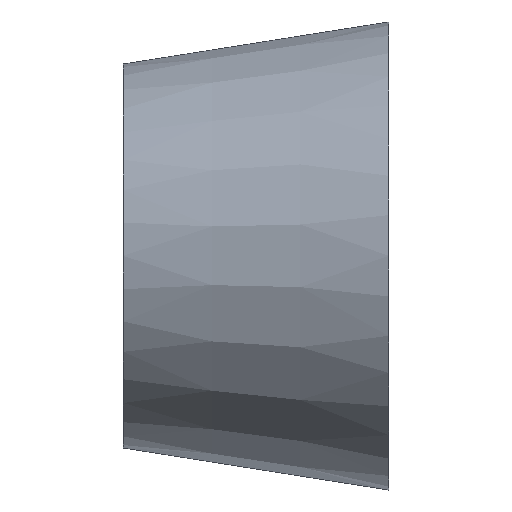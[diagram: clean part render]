
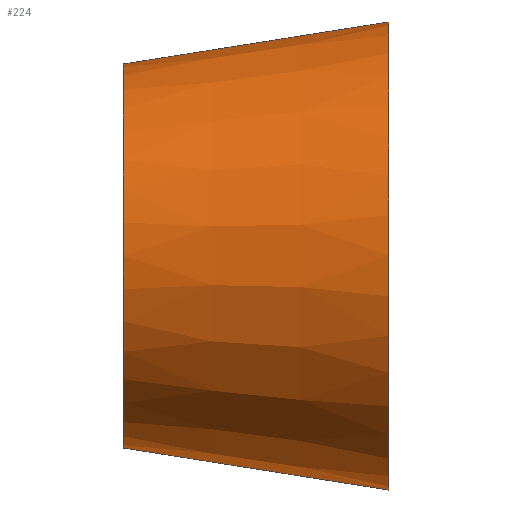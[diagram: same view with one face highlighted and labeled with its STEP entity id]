
A CAD part, left-side view. The second image highlights one B-rep face of the part: STEP entity #224.
In plain terms, the highlighted conical face has half-angle 9 degrees and reference radius 47.069 mm.
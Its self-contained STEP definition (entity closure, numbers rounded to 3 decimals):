
#1 = DIRECTION ( 'NONE',  ( -0.001, 0., -1. ) ) ;
#9 = ORIENTED_EDGE ( 'NONE', *, *, #19, .F. ) ;
#14 = EDGE_CURVE ( 'NONE', #52, #190, #192, .T. ) ;
#16 = CARTESIAN_POINT ( 'NONE',  ( -6.586, 4.524, 157.845 ) ) ;
#19 = EDGE_CURVE ( 'NONE', #28, #147, #142, .T. ) ;
#26 = VECTOR ( 'NONE', #175, 1000. ) ;
#28 = VERTEX_POINT ( 'NONE', #35 ) ;
#33 = EDGE_CURVE ( 'NONE', #190, #147, #83, .T. ) ;
#35 = CARTESIAN_POINT ( 'NONE',  ( -6.577, -60.476, 168.14 ) ) ;
#48 = ORIENTED_EDGE ( 'NONE', *, *, #14, .T. ) ;
#52 = VERTEX_POINT ( 'NONE', #16 ) ;
#60 = AXIS2_PLACEMENT_3D ( 'NONE', #265, #72, #1 ) ;
#72 = DIRECTION ( 'NONE',  ( 0., -1., 0. ) ) ;
#75 = ORIENTED_EDGE ( 'NONE', *, *, #251, .F. ) ;
#83 = LINE ( 'NONE', #150, #154 ) ;
#86 = CARTESIAN_POINT ( 'NONE',  ( -6.629, 4.524, 110.777 ) ) ;
#89 = LINE ( 'NONE', #261, #26 ) ;
#123 = AXIS2_PLACEMENT_3D ( 'NONE', #86, #242, #174 ) ;
#132 = CONICAL_SURFACE ( 'NONE', #123, 47.069, 0.157 ) ;
#142 = CIRCLE ( 'NONE', #212, 57.364 ) ;
#147 = VERTEX_POINT ( 'NONE', #156 ) ;
#149 = DIRECTION ( 'NONE',  ( -0.001, 0., -1. ) ) ;
#150 = CARTESIAN_POINT ( 'NONE',  ( -6.671, 4.524, 63.708 ) ) ;
#154 = VECTOR ( 'NONE', #235, 1000. ) ;
#156 = CARTESIAN_POINT ( 'NONE',  ( -6.68, -60.476, 53.413 ) ) ;
#166 = EDGE_LOOP ( 'NONE', ( #75, #48, #226, #9 ) ) ;
#167 = CARTESIAN_POINT ( 'NONE',  ( -6.629, -60.476, 110.777 ) ) ;
#174 = DIRECTION ( 'NONE',  ( -0.001, 0., -1. ) ) ;
#175 = DIRECTION ( 'NONE',  ( 0., -0.988, 0.156 ) ) ;
#190 = VERTEX_POINT ( 'NONE', #199 ) ;
#192 = CIRCLE ( 'NONE', #60, 47.069 ) ;
#198 = FACE_OUTER_BOUND ( 'NONE', #166, .T. ) ;
#199 = CARTESIAN_POINT ( 'NONE',  ( -6.671, 4.524, 63.708 ) ) ;
#212 = AXIS2_PLACEMENT_3D ( 'NONE', #167, #232, #149 ) ;
#224 = ADVANCED_FACE ( 'NONE', ( #198 ), #132, .T. ) ;
#226 = ORIENTED_EDGE ( 'NONE', *, *, #33, .T. ) ;
#232 = DIRECTION ( 'NONE',  ( 0., -1., 0. ) ) ;
#235 = DIRECTION ( 'NONE',  ( 0., -0.988, -0.156 ) ) ;
#242 = DIRECTION ( 'NONE',  ( 0., -1., 0. ) ) ;
#251 = EDGE_CURVE ( 'NONE', #52, #28, #89, .T. ) ;
#261 = CARTESIAN_POINT ( 'NONE',  ( -6.586, 4.524, 157.845 ) ) ;
#265 = CARTESIAN_POINT ( 'NONE',  ( -6.629, 4.524, 110.777 ) ) ;
